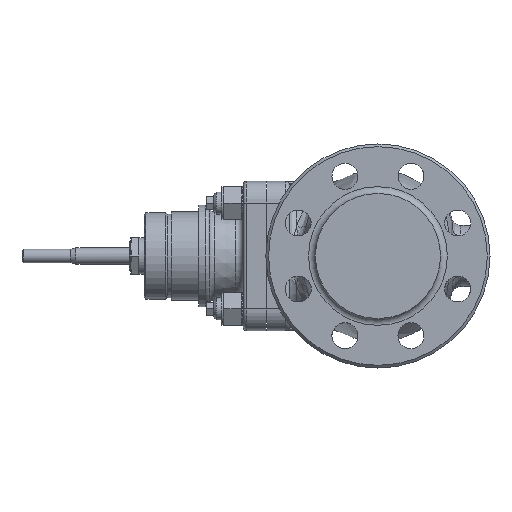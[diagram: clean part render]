
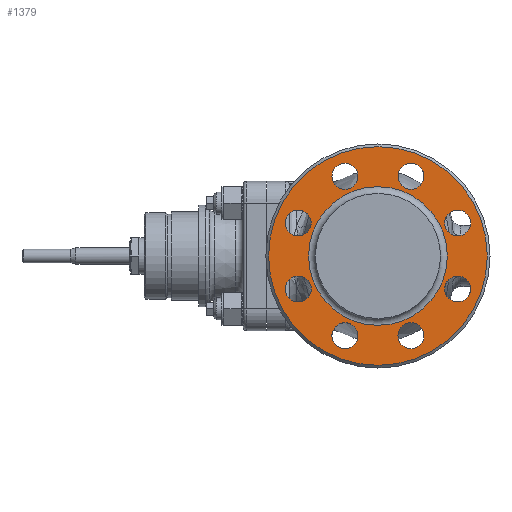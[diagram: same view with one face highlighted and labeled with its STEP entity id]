
A CAD part, left-side view. The second image highlights one B-rep face of the part: STEP entity #1379.
In plain terms, the highlighted planar face has unit normal (-1, 0, 0).
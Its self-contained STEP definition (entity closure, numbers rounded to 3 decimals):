
#369=PLANE('',#7430);
#1379=ADVANCED_FACE('',(#1993,#1994,#1995,#1996,#1997,#1998,#1999,#2000,
#2001,#2002),#369,.T.);
#1993=FACE_BOUND('',#2270,.T.);
#1994=FACE_BOUND('',#2271,.T.);
#1995=FACE_BOUND('',#2272,.T.);
#1996=FACE_BOUND('',#2273,.T.);
#1997=FACE_BOUND('',#2274,.T.);
#1998=FACE_BOUND('',#2275,.T.);
#1999=FACE_BOUND('',#2276,.T.);
#2000=FACE_BOUND('',#2277,.T.);
#2001=FACE_BOUND('',#2278,.T.);
#2002=FACE_BOUND('',#2279,.T.);
#2270=EDGE_LOOP('',(#3420));
#2271=EDGE_LOOP('',(#3421));
#2272=EDGE_LOOP('',(#3422));
#2273=EDGE_LOOP('',(#3423));
#2274=EDGE_LOOP('',(#3424));
#2275=EDGE_LOOP('',(#3425));
#2276=EDGE_LOOP('',(#3426));
#2277=EDGE_LOOP('',(#3427));
#2278=EDGE_LOOP('',(#3428));
#2279=EDGE_LOOP('',(#3429));
#3420=ORIENTED_EDGE('',*,*,#6080,.T.);
#3421=ORIENTED_EDGE('',*,*,#6081,.T.);
#3422=ORIENTED_EDGE('',*,*,#6082,.T.);
#3423=ORIENTED_EDGE('',*,*,#6083,.T.);
#3424=ORIENTED_EDGE('',*,*,#6084,.T.);
#3425=ORIENTED_EDGE('',*,*,#6085,.T.);
#3426=ORIENTED_EDGE('',*,*,#6086,.T.);
#3427=ORIENTED_EDGE('',*,*,#6087,.T.);
#3428=ORIENTED_EDGE('',*,*,#6088,.T.);
#3429=ORIENTED_EDGE('',*,*,#6089,.T.);
#5418=VERTEX_POINT('',#11321);
#5419=VERTEX_POINT('',#11323);
#5420=VERTEX_POINT('',#11325);
#5421=VERTEX_POINT('',#11327);
#5422=VERTEX_POINT('',#11329);
#5423=VERTEX_POINT('',#11331);
#5424=VERTEX_POINT('',#11333);
#5425=VERTEX_POINT('',#11335);
#5426=VERTEX_POINT('',#11337);
#5427=VERTEX_POINT('',#11339);
#6080=EDGE_CURVE('',#5418,#5418,#6981,.T.);
#6081=EDGE_CURVE('',#5419,#5419,#6982,.T.);
#6082=EDGE_CURVE('',#5420,#5420,#6983,.T.);
#6083=EDGE_CURVE('',#5421,#5421,#6984,.T.);
#6084=EDGE_CURVE('',#5422,#5422,#6985,.T.);
#6085=EDGE_CURVE('',#5423,#5423,#6986,.T.);
#6086=EDGE_CURVE('',#5424,#5424,#6987,.T.);
#6087=EDGE_CURVE('',#5425,#5425,#6988,.T.);
#6088=EDGE_CURVE('',#5426,#5426,#6989,.T.);
#6089=EDGE_CURVE('',#5427,#5427,#6990,.T.);
#6981=CIRCLE('',#7420,80.5);
#6982=CIRCLE('',#7421,9.55);
#6983=CIRCLE('',#7422,9.55);
#6984=CIRCLE('',#7423,9.55);
#6985=CIRCLE('',#7424,9.55);
#6986=CIRCLE('',#7425,9.55);
#6987=CIRCLE('',#7426,9.55);
#6988=CIRCLE('',#7427,9.55);
#6989=CIRCLE('',#7428,9.55);
#6990=CIRCLE('',#7429,51.05);
#7420=AXIS2_PLACEMENT_3D('',#11320,#8365,#8366);
#7421=AXIS2_PLACEMENT_3D('',#11322,#8367,#8368);
#7422=AXIS2_PLACEMENT_3D('',#11324,#8369,#8370);
#7423=AXIS2_PLACEMENT_3D('',#11326,#8371,#8372);
#7424=AXIS2_PLACEMENT_3D('',#11328,#8373,#8374);
#7425=AXIS2_PLACEMENT_3D('',#11330,#8375,#8376);
#7426=AXIS2_PLACEMENT_3D('',#11332,#8377,#8378);
#7427=AXIS2_PLACEMENT_3D('',#11334,#8379,#8380);
#7428=AXIS2_PLACEMENT_3D('',#11336,#8381,#8382);
#7429=AXIS2_PLACEMENT_3D('',#11338,#8383,#8384);
#7430=AXIS2_PLACEMENT_3D('',#11340,#8385,#8386);
#8365=DIRECTION('',(-1.,0.,0.));
#8366=DIRECTION('',(0.,0.,1.));
#8367=DIRECTION('',(1.,0.,0.));
#8368=DIRECTION('',(0.,-0.707,-0.707));
#8369=DIRECTION('',(1.,0.,0.));
#8370=DIRECTION('',(0.,-1.,0.));
#8371=DIRECTION('',(1.,0.,0.));
#8372=DIRECTION('',(0.,-0.707,0.707));
#8373=DIRECTION('',(1.,0.,0.));
#8374=DIRECTION('',(0.,0.,1.));
#8375=DIRECTION('',(1.,0.,0.));
#8376=DIRECTION('',(0.,0.707,0.707));
#8377=DIRECTION('',(1.,0.,0.));
#8378=DIRECTION('',(0.,1.,0.));
#8379=DIRECTION('',(1.,0.,0.));
#8380=DIRECTION('',(0.,0.707,-0.707));
#8381=DIRECTION('',(1.,0.,0.));
#8382=DIRECTION('',(0.,0.,-1.));
#8383=DIRECTION('',(1.,0.,0.));
#8384=DIRECTION('',(0.,0.,1.));
#8385=DIRECTION('',(-1.,0.,0.));
#8386=DIRECTION('',(0.,0.,1.));
#11320=CARTESIAN_POINT('',(-136.,0.,0.));
#11321=CARTESIAN_POINT('',(-136.,0.,80.5));
#11322=CARTESIAN_POINT('',(-136.,24.3,-58.666));
#11323=CARTESIAN_POINT('',(-136.,17.548,-65.419));
#11324=CARTESIAN_POINT('',(-136.,-24.3,-58.666));
#11325=CARTESIAN_POINT('',(-136.,-33.85,-58.666));
#11326=CARTESIAN_POINT('',(-136.,-58.666,-24.3));
#11327=CARTESIAN_POINT('',(-136.,-65.419,-17.548));
#11328=CARTESIAN_POINT('',(-136.,-58.666,24.3));
#11329=CARTESIAN_POINT('',(-136.,-58.666,33.85));
#11330=CARTESIAN_POINT('',(-136.,-24.3,58.666));
#11331=CARTESIAN_POINT('',(-136.,-17.548,65.419));
#11332=CARTESIAN_POINT('',(-136.,24.3,58.666));
#11333=CARTESIAN_POINT('',(-136.,33.85,58.666));
#11334=CARTESIAN_POINT('',(-136.,58.666,24.3));
#11335=CARTESIAN_POINT('',(-136.,65.419,17.548));
#11336=CARTESIAN_POINT('',(-136.,58.666,-24.3));
#11337=CARTESIAN_POINT('',(-136.,58.666,-33.85));
#11338=CARTESIAN_POINT('',(-136.,0.,0.));
#11339=CARTESIAN_POINT('',(-136.,0.,51.05));
#11340=CARTESIAN_POINT('',(-136.,46.05,0.));
